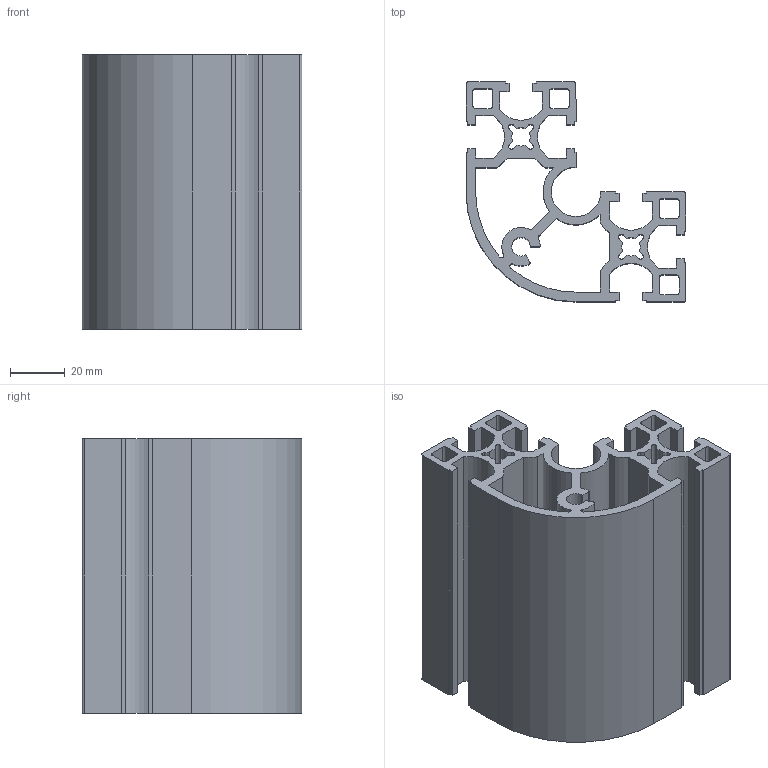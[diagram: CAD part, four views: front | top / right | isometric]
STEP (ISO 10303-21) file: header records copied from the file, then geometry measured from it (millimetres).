
FILE_DESCRIPTION(/* description */ (''),/* implementation_level */ '2;1');
FILE_NAME(/* name */ 'C:\Users\Owner\Documents\硯聰\Inv材料庫-3D新型錄\AM-(鋁擠)\8系列\AM8-8840R_100L.stp',/* time_stamp */ '2019-03-08T11:42:45+08:00',/* author */ ('Owner'),/* organization */ (''),/* preprocessor_version */ 'ST-DEVELOPER v16.1',/* originating_system */ 'Autodesk Inventor 2016',/* authorisation */ '');
FILE_SCHEMA (('AUTOMOTIVE_DESIGN { 1 0 10303 214 3 1 1 }'));
Length unit declared in the file: millimetre
Products named in the file (1): AM8-8840R_100L
Bounding box: 80 x 80 x 100 mm (x, y, z)
Volume: 154892.3 mm3; surface area: 100532.7 mm2
Topology: 1 solids, 1 shells, 182 faces, 540 edges, 360 vertices
Faces by surface type: plane 118, cylinder 64
Entity records: 6148 total; most frequent: CARTESIAN_POINT 1083, ORIENTED_EDGE 1080, DIRECTION 1034, EDGE_CURVE 540, LINE 412, VECTOR 412, VERTEX_POINT 360, AXIS2_PLACEMENT_3D 311
